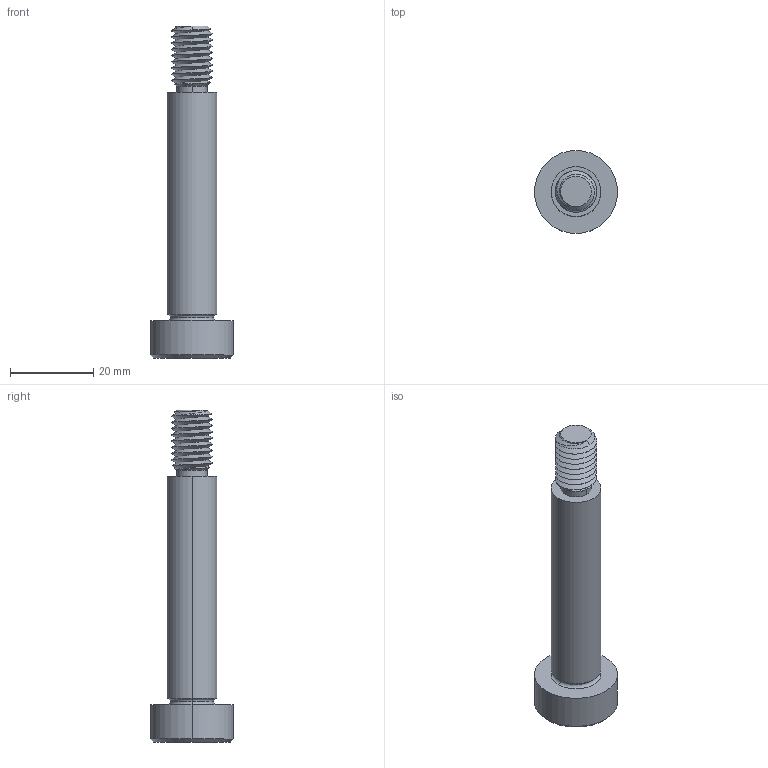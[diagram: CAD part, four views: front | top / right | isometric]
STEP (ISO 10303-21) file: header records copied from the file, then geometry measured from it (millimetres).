
FILE_DESCRIPTION (( 'STEP AP203' ), '1' );
FILE_NAME ('P0130.120-055-B2.step', '2021-11-09T22:08:10', ( '' ), ( '' ), 'SwSTEP 2.0', 'SolidWorks 2019', '' );
FILE_SCHEMA (( 'CONFIG_CONTROL_DESIGN' ));
Length unit declared in the file: millimetre
Products named in the file (1): P0130.120-055-B2
Bounding box: 20 x 20 x 80 mm (x, y, z)
Volume: 9710.1 mm3; surface area: 4193.5 mm2
Topology: 1 solids, 1 shells, 60 faces, 142 edges, 85 vertices
Faces by surface type: cylinder 23, plane 16, cone 15, torus 4, bspline 2
Entity records: 3534 total; most frequent: CARTESIAN_POINT 2187, ORIENTED_EDGE 280, DIRECTION 247, EDGE_CURVE 140, AXIS2_PLACEMENT_3D 99, VERTEX_POINT 85, EDGE_LOOP 63, FACE_OUTER_BOUND 60
